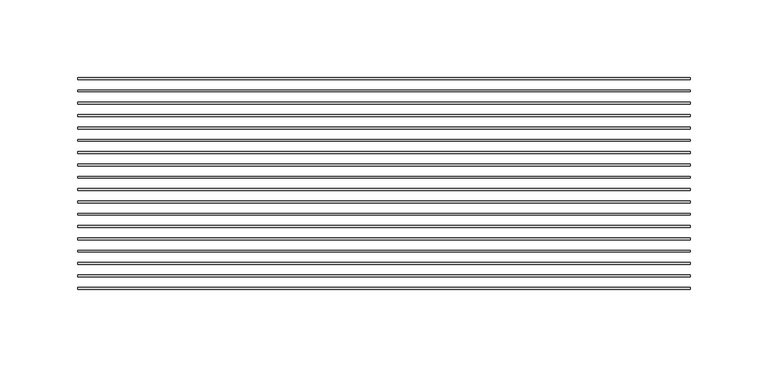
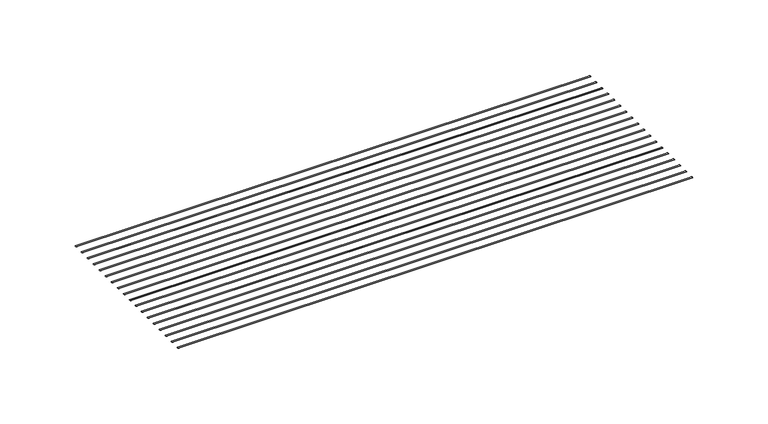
"""IFC4 building model written with IfcOpenShell, lengths in millimetres: proxy geometry, CRAi Generic Model Mesh Piece Face Based : CRAi Generic Model Mesh Piece Face Based."""

from ifc_helpers import new_model, si_unit, point, frame, origin, place, context, project, spatial, ellipse_curve, trimmed, source, transform, mapped, element, save
from ifc_brep_helpers import plane_surface, extruded_surface, advanced_brep


def generic_models_2850309d(model_context):
    return source(origin(), model_context, "Body", "AdvancedBrep", [
        advanced_brep(
        [(-196.85, -60.1761719, -2.9765625), (-196.85, -58.9855469, -2.9765625), (196.85, -60.1761719, -2.9765625), (196.85, -58.9855469, -2.9765625)],
        [
            (0, 1, ellipse_curve(frame((-196.85, -59.5808594, -2.9765625), z_axis=(-1.0, 0.0, 0.0), x_axis=(0.0, 1.0, 0.0)), 0.5953125, 0.1984375)),
            (1, 0, ellipse_curve(frame((-196.85, -59.5808594, -2.9765625), z_axis=(-1.0, 0.0, 0.0), x_axis=(0.0, 1.0, 0.0)), 0.5953125, 0.1984375)),
            (2, 3, ellipse_curve(frame((196.85, -59.5808594, -2.9765625), z_axis=(1.0, 0.0, 0.0), x_axis=(0.0, 1.0, 0.0)), 0.5953125, 0.1984375)),
            (3, 2, ellipse_curve(frame((196.85, -59.5808594, -2.9765625), z_axis=(1.0, 0.0, 0.0), x_axis=(0.0, 1.0, 0.0)), 0.5953125, 0.1984375)),
            (1, 3),
            (2, 0),
        ],
        [
            plane_surface(frame((-196.85, -59.5808594, -2.9765625), z_axis=(-1.0, 0.0, 0.0), x_axis=(0.0, 0.0, 1.0))),
            plane_surface(frame((196.85, -59.5808594, -2.9765625), z_axis=(1.0, 0.0, 0.0), x_axis=(0.0, 0.0, 1.0))),
            extruded_surface(trimmed(ellipse_curve(frame((-196.85, -59.5808594, -2.9765625), z_axis=(1.0, 0.0, 0.0), x_axis=(0.0, 1.0, 0.0)), 0.5953125, 0.1984375), [point((-196.85, -60.1761719, -2.9765625))], [point((-196.85, -58.9855469, -2.9765625))], True, "CARTESIAN"), (393.7, 0.0, 0.0), 393.7),
            extruded_surface(trimmed(ellipse_curve(frame((-196.85, -59.5808594, -2.9765625), z_axis=(1.0, 0.0, 0.0), x_axis=(0.0, 1.0, 0.0)), 0.5953125, 0.1984375), [point((-196.85, -58.9855469, -2.9765625))], [point((-196.85, -60.1761719, -2.9765625))], True, "CARTESIAN"), (393.7, 0.0, 0.0), 393.7),
        ],
        [
            (0, [[1, 2]]),
            (1, [[3, 4]]),
            (2, [[5, -3, 6, -2]]),
            (3, [[-6, -4, -5, -1]]),
        ],
    ),
        advanced_brep(
        [(-196.85, -52.2386719, -2.9765625), (-196.85, -51.0480469, -2.9765625), (196.85, -52.2386719, -2.9765625), (196.85, -51.0480469, -2.9765625)],
        [
            (0, 1, ellipse_curve(frame((-196.85, -51.6433594, -2.9765625), z_axis=(-1.0, 0.0, 0.0), x_axis=(0.0, 1.0, 0.0)), 0.5953125, 0.1984375)),
            (1, 0, ellipse_curve(frame((-196.85, -51.6433594, -2.9765625), z_axis=(-1.0, 0.0, 0.0), x_axis=(0.0, 1.0, 0.0)), 0.5953125, 0.1984375)),
            (2, 3, ellipse_curve(frame((196.85, -51.6433594, -2.9765625), z_axis=(1.0, 0.0, 0.0), x_axis=(0.0, 1.0, 0.0)), 0.5953125, 0.1984375)),
            (3, 2, ellipse_curve(frame((196.85, -51.6433594, -2.9765625), z_axis=(1.0, 0.0, 0.0), x_axis=(0.0, 1.0, 0.0)), 0.5953125, 0.1984375)),
            (1, 3),
            (2, 0),
        ],
        [
            plane_surface(frame((-196.85, -51.6433594, -2.9765625), z_axis=(-1.0, 0.0, 0.0), x_axis=(0.0, 0.0, 1.0))),
            plane_surface(frame((196.85, -51.6433594, -2.9765625), z_axis=(1.0, 0.0, 0.0), x_axis=(0.0, 0.0, 1.0))),
            extruded_surface(trimmed(ellipse_curve(frame((-196.85, -51.6433594, -2.9765625), z_axis=(1.0, 0.0, 0.0), x_axis=(0.0, 1.0, 0.0)), 0.5953125, 0.1984375), [point((-196.85, -52.2386719, -2.9765625))], [point((-196.85, -51.0480469, -2.9765625))], True, "CARTESIAN"), (393.7, 0.0, 0.0), 393.7),
            extruded_surface(trimmed(ellipse_curve(frame((-196.85, -51.6433594, -2.9765625), z_axis=(1.0, 0.0, 0.0), x_axis=(0.0, 1.0, 0.0)), 0.5953125, 0.1984375), [point((-196.85, -51.0480469, -2.9765625))], [point((-196.85, -52.2386719, -2.9765625))], True, "CARTESIAN"), (393.7, 0.0, 0.0), 393.7),
        ],
        [
            (0, [[1, 2]]),
            (1, [[3, 4]]),
            (2, [[5, -3, 6, -2]]),
            (3, [[-6, -4, -5, -1]]),
        ],
    ),
        advanced_brep(
        [(-196.85, -44.3011719, -2.9765625), (-196.85, -43.1105469, -2.9765625), (196.85, -44.3011719, -2.9765625), (196.85, -43.1105469, -2.9765625)],
        [
            (0, 1, ellipse_curve(frame((-196.85, -43.7058594, -2.9765625), z_axis=(-1.0, 0.0, 0.0), x_axis=(0.0, 1.0, 0.0)), 0.5953125, 0.1984375)),
            (1, 0, ellipse_curve(frame((-196.85, -43.7058594, -2.9765625), z_axis=(-1.0, 0.0, 0.0), x_axis=(0.0, 1.0, 0.0)), 0.5953125, 0.1984375)),
            (2, 3, ellipse_curve(frame((196.85, -43.7058594, -2.9765625), z_axis=(1.0, 0.0, 0.0), x_axis=(0.0, 1.0, 0.0)), 0.5953125, 0.1984375)),
            (3, 2, ellipse_curve(frame((196.85, -43.7058594, -2.9765625), z_axis=(1.0, 0.0, 0.0), x_axis=(0.0, 1.0, 0.0)), 0.5953125, 0.1984375)),
            (1, 3),
            (2, 0),
        ],
        [
            plane_surface(frame((-196.85, -43.7058594, -2.9765625), z_axis=(-1.0, 0.0, 0.0), x_axis=(0.0, 0.0, 1.0))),
            plane_surface(frame((196.85, -43.7058594, -2.9765625), z_axis=(1.0, 0.0, 0.0), x_axis=(0.0, 0.0, 1.0))),
            extruded_surface(trimmed(ellipse_curve(frame((-196.85, -43.7058594, -2.9765625), z_axis=(1.0, 0.0, 0.0), x_axis=(0.0, 1.0, 0.0)), 0.5953125, 0.1984375), [point((-196.85, -44.3011719, -2.9765625))], [point((-196.85, -43.1105469, -2.9765625))], True, "CARTESIAN"), (393.7, 0.0, 0.0), 393.7),
            extruded_surface(trimmed(ellipse_curve(frame((-196.85, -43.7058594, -2.9765625), z_axis=(1.0, 0.0, 0.0), x_axis=(0.0, 1.0, 0.0)), 0.5953125, 0.1984375), [point((-196.85, -43.1105469, -2.9765625))], [point((-196.85, -44.3011719, -2.9765625))], True, "CARTESIAN"), (393.7, 0.0, 0.0), 393.7),
        ],
        [
            (0, [[1, 2]]),
            (1, [[3, 4]]),
            (2, [[5, -3, 6, -2]]),
            (3, [[-6, -4, -5, -1]]),
        ],
    ),
        advanced_brep(
        [(-196.85, -36.3636719, -2.9765625), (-196.85, -35.1730469, -2.9765625), (196.85, -36.3636719, -2.9765625), (196.85, -35.1730469, -2.9765625)],
        [
            (0, 1, ellipse_curve(frame((-196.85, -35.7683594, -2.9765625), z_axis=(-1.0, 0.0, 0.0), x_axis=(0.0, 1.0, 0.0)), 0.5953125, 0.1984375)),
            (1, 0, ellipse_curve(frame((-196.85, -35.7683594, -2.9765625), z_axis=(-1.0, 0.0, 0.0), x_axis=(0.0, 1.0, 0.0)), 0.5953125, 0.1984375)),
            (2, 3, ellipse_curve(frame((196.85, -35.7683594, -2.9765625), z_axis=(1.0, 0.0, 0.0), x_axis=(0.0, 1.0, 0.0)), 0.5953125, 0.1984375)),
            (3, 2, ellipse_curve(frame((196.85, -35.7683594, -2.9765625), z_axis=(1.0, 0.0, 0.0), x_axis=(0.0, 1.0, 0.0)), 0.5953125, 0.1984375)),
            (1, 3),
            (2, 0),
        ],
        [
            plane_surface(frame((-196.85, -35.7683594, -2.9765625), z_axis=(-1.0, 0.0, 0.0), x_axis=(0.0, 0.0, 1.0))),
            plane_surface(frame((196.85, -35.7683594, -2.9765625), z_axis=(1.0, 0.0, 0.0), x_axis=(0.0, 0.0, 1.0))),
            extruded_surface(trimmed(ellipse_curve(frame((-196.85, -35.7683594, -2.9765625), z_axis=(1.0, 0.0, 0.0), x_axis=(0.0, 1.0, 0.0)), 0.5953125, 0.1984375), [point((-196.85, -36.3636719, -2.9765625))], [point((-196.85, -35.1730469, -2.9765625))], True, "CARTESIAN"), (393.7, 0.0, 0.0), 393.7),
            extruded_surface(trimmed(ellipse_curve(frame((-196.85, -35.7683594, -2.9765625), z_axis=(1.0, 0.0, 0.0), x_axis=(0.0, 1.0, 0.0)), 0.5953125, 0.1984375), [point((-196.85, -35.1730469, -2.9765625))], [point((-196.85, -36.3636719, -2.9765625))], True, "CARTESIAN"), (393.7, 0.0, 0.0), 393.7),
        ],
        [
            (0, [[1, 2]]),
            (1, [[3, 4]]),
            (2, [[5, -3, 6, -2]]),
            (3, [[-6, -4, -5, -1]]),
        ],
    ),
        advanced_brep(
        [(-196.85, -28.4261719, -2.9765625), (-196.85, -27.2355469, -2.9765625), (196.85, -28.4261719, -2.9765625), (196.85, -27.2355469, -2.9765625)],
        [
            (0, 1, ellipse_curve(frame((-196.85, -27.8308594, -2.9765625), z_axis=(-1.0, 0.0, 0.0), x_axis=(0.0, 1.0, 0.0)), 0.5953125, 0.1984375)),
            (1, 0, ellipse_curve(frame((-196.85, -27.8308594, -2.9765625), z_axis=(-1.0, 0.0, 0.0), x_axis=(0.0, 1.0, 0.0)), 0.5953125, 0.1984375)),
            (2, 3, ellipse_curve(frame((196.85, -27.8308594, -2.9765625), z_axis=(1.0, 0.0, 0.0), x_axis=(0.0, 1.0, 0.0)), 0.5953125, 0.1984375)),
            (3, 2, ellipse_curve(frame((196.85, -27.8308594, -2.9765625), z_axis=(1.0, 0.0, 0.0), x_axis=(0.0, 1.0, 0.0)), 0.5953125, 0.1984375)),
            (1, 3),
            (2, 0),
        ],
        [
            plane_surface(frame((-196.85, -27.8308594, -2.9765625), z_axis=(-1.0, 0.0, 0.0), x_axis=(0.0, 0.0, 1.0))),
            plane_surface(frame((196.85, -27.8308594, -2.9765625), z_axis=(1.0, 0.0, 0.0), x_axis=(0.0, 0.0, 1.0))),
            extruded_surface(trimmed(ellipse_curve(frame((-196.85, -27.8308594, -2.9765625), z_axis=(1.0, 0.0, 0.0), x_axis=(0.0, 1.0, 0.0)), 0.5953125, 0.1984375), [point((-196.85, -28.4261719, -2.9765625))], [point((-196.85, -27.2355469, -2.9765625))], True, "CARTESIAN"), (393.7, 0.0, 0.0), 393.7),
            extruded_surface(trimmed(ellipse_curve(frame((-196.85, -27.8308594, -2.9765625), z_axis=(1.0, 0.0, 0.0), x_axis=(0.0, 1.0, 0.0)), 0.5953125, 0.1984375), [point((-196.85, -27.2355469, -2.9765625))], [point((-196.85, -28.4261719, -2.9765625))], True, "CARTESIAN"), (393.7, 0.0, 0.0), 393.7),
        ],
        [
            (0, [[1, 2]]),
            (1, [[3, 4]]),
            (2, [[5, -3, 6, -2]]),
            (3, [[-6, -4, -5, -1]]),
        ],
    ),
        advanced_brep(
        [(-196.85, -20.4886719, -2.9765625), (-196.85, -19.2980469, -2.9765625), (196.85, -20.4886719, -2.9765625), (196.85, -19.2980469, -2.9765625)],
        [
            (0, 1, ellipse_curve(frame((-196.85, -19.8933594, -2.9765625), z_axis=(-1.0, 0.0, 0.0), x_axis=(0.0, 1.0, 0.0)), 0.5953125, 0.1984375)),
            (1, 0, ellipse_curve(frame((-196.85, -19.8933594, -2.9765625), z_axis=(-1.0, 0.0, 0.0), x_axis=(0.0, 1.0, 0.0)), 0.5953125, 0.1984375)),
            (2, 3, ellipse_curve(frame((196.85, -19.8933594, -2.9765625), z_axis=(1.0, 0.0, 0.0), x_axis=(0.0, 1.0, 0.0)), 0.5953125, 0.1984375)),
            (3, 2, ellipse_curve(frame((196.85, -19.8933594, -2.9765625), z_axis=(1.0, 0.0, 0.0), x_axis=(0.0, 1.0, 0.0)), 0.5953125, 0.1984375)),
            (1, 3),
            (2, 0),
        ],
        [
            plane_surface(frame((-196.85, -19.8933594, -2.9765625), z_axis=(-1.0, 0.0, 0.0), x_axis=(0.0, 0.0, 1.0))),
            plane_surface(frame((196.85, -19.8933594, -2.9765625), z_axis=(1.0, 0.0, 0.0), x_axis=(0.0, 0.0, 1.0))),
            extruded_surface(trimmed(ellipse_curve(frame((-196.85, -19.8933594, -2.9765625), z_axis=(1.0, 0.0, 0.0), x_axis=(0.0, 1.0, 0.0)), 0.5953125, 0.1984375), [point((-196.85, -20.4886719, -2.9765625))], [point((-196.85, -19.2980469, -2.9765625))], True, "CARTESIAN"), (393.7, 0.0, 0.0), 393.7),
            extruded_surface(trimmed(ellipse_curve(frame((-196.85, -19.8933594, -2.9765625), z_axis=(1.0, 0.0, 0.0), x_axis=(0.0, 1.0, 0.0)), 0.5953125, 0.1984375), [point((-196.85, -19.2980469, -2.9765625))], [point((-196.85, -20.4886719, -2.9765625))], True, "CARTESIAN"), (393.7, 0.0, 0.0), 393.7),
        ],
        [
            (0, [[1, 2]]),
            (1, [[3, 4]]),
            (2, [[5, -3, 6, -2]]),
            (3, [[-6, -4, -5, -1]]),
        ],
    ),
        advanced_brep(
        [(-196.85, -12.5511719, -2.9765625), (-196.85, -11.3605469, -2.9765625), (196.85, -12.5511719, -2.9765625), (196.85, -11.3605469, -2.9765625)],
        [
            (0, 1, ellipse_curve(frame((-196.85, -11.9558594, -2.9765625), z_axis=(-1.0, 0.0, 0.0), x_axis=(0.0, 1.0, 0.0)), 0.5953125, 0.1984375)),
            (1, 0, ellipse_curve(frame((-196.85, -11.9558594, -2.9765625), z_axis=(-1.0, 0.0, 0.0), x_axis=(0.0, 1.0, 0.0)), 0.5953125, 0.1984375)),
            (2, 3, ellipse_curve(frame((196.85, -11.9558594, -2.9765625), z_axis=(1.0, 0.0, 0.0), x_axis=(0.0, 1.0, 0.0)), 0.5953125, 0.1984375)),
            (3, 2, ellipse_curve(frame((196.85, -11.9558594, -2.9765625), z_axis=(1.0, 0.0, 0.0), x_axis=(0.0, 1.0, 0.0)), 0.5953125, 0.1984375)),
            (1, 3),
            (2, 0),
        ],
        [
            plane_surface(frame((-196.85, -11.9558594, -2.9765625), z_axis=(-1.0, 0.0, 0.0), x_axis=(0.0, 0.0, 1.0))),
            plane_surface(frame((196.85, -11.9558594, -2.9765625), z_axis=(1.0, 0.0, 0.0), x_axis=(0.0, 0.0, 1.0))),
            extruded_surface(trimmed(ellipse_curve(frame((-196.85, -11.9558594, -2.9765625), z_axis=(1.0, 0.0, 0.0), x_axis=(0.0, 1.0, 0.0)), 0.5953125, 0.1984375), [point((-196.85, -12.5511719, -2.9765625))], [point((-196.85, -11.3605469, -2.9765625))], True, "CARTESIAN"), (393.7, 0.0, 0.0), 393.7),
            extruded_surface(trimmed(ellipse_curve(frame((-196.85, -11.9558594, -2.9765625), z_axis=(1.0, 0.0, 0.0), x_axis=(0.0, 1.0, 0.0)), 0.5953125, 0.1984375), [point((-196.85, -11.3605469, -2.9765625))], [point((-196.85, -12.5511719, -2.9765625))], True, "CARTESIAN"), (393.7, 0.0, 0.0), 393.7),
        ],
        [
            (0, [[1, 2]]),
            (1, [[3, 4]]),
            (2, [[5, -3, 6, -2]]),
            (3, [[-6, -4, -5, -1]]),
        ],
    ),
        advanced_brep(
        [(-196.85, -4.6136719, -2.9765625), (-196.85, -3.4230469, -2.9765625), (196.85, -4.6136719, -2.9765625), (196.85, -3.4230469, -2.9765625)],
        [
            (0, 1, ellipse_curve(frame((-196.85, -4.0183594, -2.9765625), z_axis=(-1.0, 0.0, 0.0), x_axis=(0.0, 1.0, 0.0)), 0.5953125, 0.1984375)),
            (1, 0, ellipse_curve(frame((-196.85, -4.0183594, -2.9765625), z_axis=(-1.0, 0.0, 0.0), x_axis=(0.0, 1.0, 0.0)), 0.5953125, 0.1984375)),
            (2, 3, ellipse_curve(frame((196.85, -4.0183594, -2.9765625), z_axis=(1.0, 0.0, 0.0), x_axis=(0.0, 1.0, 0.0)), 0.5953125, 0.1984375)),
            (3, 2, ellipse_curve(frame((196.85, -4.0183594, -2.9765625), z_axis=(1.0, 0.0, 0.0), x_axis=(0.0, 1.0, 0.0)), 0.5953125, 0.1984375)),
            (1, 3),
            (2, 0),
        ],
        [
            plane_surface(frame((-196.85, -4.0183594, -2.9765625), z_axis=(-1.0, 0.0, 0.0), x_axis=(0.0, 0.0, 1.0))),
            plane_surface(frame((196.85, -4.0183594, -2.9765625), z_axis=(1.0, 0.0, 0.0), x_axis=(0.0, 0.0, 1.0))),
            extruded_surface(trimmed(ellipse_curve(frame((-196.85, -4.0183594, -2.9765625), z_axis=(1.0, 0.0, 0.0), x_axis=(0.0, 1.0, 0.0)), 0.5953125, 0.1984375), [point((-196.85, -4.6136719, -2.9765625))], [point((-196.85, -3.4230469, -2.9765625))], True, "CARTESIAN"), (393.7, 0.0, 0.0), 393.7),
            extruded_surface(trimmed(ellipse_curve(frame((-196.85, -4.0183594, -2.9765625), z_axis=(1.0, 0.0, 0.0), x_axis=(0.0, 1.0, 0.0)), 0.5953125, 0.1984375), [point((-196.85, -3.4230469, -2.9765625))], [point((-196.85, -4.6136719, -2.9765625))], True, "CARTESIAN"), (393.7, 0.0, 0.0), 393.7),
        ],
        [
            (0, [[1, 2]]),
            (1, [[3, 4]]),
            (2, [[5, -3, 6, -2]]),
            (3, [[-6, -4, -5, -1]]),
        ],
    ),
        advanced_brep(
        [(-196.85, 3.3238281, -2.9765625), (-196.85, 4.5144531, -2.9765625), (196.85, 3.3238281, -2.9765625), (196.85, 4.5144531, -2.9765625)],
        [
            (0, 1, ellipse_curve(frame((-196.85, 3.9191406, -2.9765625), z_axis=(-1.0, 0.0, 0.0), x_axis=(0.0, 1.0, 0.0)), 0.5953125, 0.1984375)),
            (1, 0, ellipse_curve(frame((-196.85, 3.9191406, -2.9765625), z_axis=(-1.0, 0.0, 0.0), x_axis=(0.0, 1.0, 0.0)), 0.5953125, 0.1984375)),
            (2, 3, ellipse_curve(frame((196.85, 3.9191406, -2.9765625), z_axis=(1.0, 0.0, 0.0), x_axis=(0.0, 1.0, 0.0)), 0.5953125, 0.1984375)),
            (3, 2, ellipse_curve(frame((196.85, 3.9191406, -2.9765625), z_axis=(1.0, 0.0, 0.0), x_axis=(0.0, 1.0, 0.0)), 0.5953125, 0.1984375)),
            (1, 3),
            (2, 0),
        ],
        [
            plane_surface(frame((-196.85, 3.9191406, -2.9765625), z_axis=(-1.0, 0.0, 0.0), x_axis=(0.0, 0.0, 1.0))),
            plane_surface(frame((196.85, 3.9191406, -2.9765625), z_axis=(1.0, 0.0, 0.0), x_axis=(0.0, 0.0, 1.0))),
            extruded_surface(trimmed(ellipse_curve(frame((-196.85, 3.9191406, -2.9765625), z_axis=(1.0, 0.0, 0.0), x_axis=(0.0, 1.0, 0.0)), 0.5953125, 0.1984375), [point((-196.85, 3.3238281, -2.9765625))], [point((-196.85, 4.5144531, -2.9765625))], True, "CARTESIAN"), (393.7, 0.0, 0.0), 393.7),
            extruded_surface(trimmed(ellipse_curve(frame((-196.85, 3.9191406, -2.9765625), z_axis=(1.0, 0.0, 0.0), x_axis=(0.0, 1.0, 0.0)), 0.5953125, 0.1984375), [point((-196.85, 4.5144531, -2.9765625))], [point((-196.85, 3.3238281, -2.9765625))], True, "CARTESIAN"), (393.7, 0.0, 0.0), 393.7),
        ],
        [
            (0, [[1, 2]]),
            (1, [[3, 4]]),
            (2, [[5, -3, 6, -2]]),
            (3, [[-6, -4, -5, -1]]),
        ],
    ),
        advanced_brep(
        [(-196.85, 11.2613281, -2.9765625), (-196.85, 12.4519531, -2.9765625), (196.85, 11.2613281, -2.9765625), (196.85, 12.4519531, -2.9765625)],
        [
            (0, 1, ellipse_curve(frame((-196.85, 11.8566406, -2.9765625), z_axis=(-1.0, 0.0, 0.0), x_axis=(0.0, 1.0, 0.0)), 0.5953125, 0.1984375)),
            (1, 0, ellipse_curve(frame((-196.85, 11.8566406, -2.9765625), z_axis=(-1.0, 0.0, 0.0), x_axis=(0.0, 1.0, 0.0)), 0.5953125, 0.1984375)),
            (2, 3, ellipse_curve(frame((196.85, 11.8566406, -2.9765625), z_axis=(1.0, 0.0, 0.0), x_axis=(0.0, 1.0, 0.0)), 0.5953125, 0.1984375)),
            (3, 2, ellipse_curve(frame((196.85, 11.8566406, -2.9765625), z_axis=(1.0, 0.0, 0.0), x_axis=(0.0, 1.0, 0.0)), 0.5953125, 0.1984375)),
            (1, 3),
            (2, 0),
        ],
        [
            plane_surface(frame((-196.85, 11.8566406, -2.9765625), z_axis=(-1.0, 0.0, 0.0), x_axis=(0.0, 0.0, 1.0))),
            plane_surface(frame((196.85, 11.8566406, -2.9765625), z_axis=(1.0, 0.0, 0.0), x_axis=(0.0, 0.0, 1.0))),
            extruded_surface(trimmed(ellipse_curve(frame((-196.85, 11.8566406, -2.9765625), z_axis=(1.0, 0.0, 0.0), x_axis=(0.0, 1.0, 0.0)), 0.5953125, 0.1984375), [point((-196.85, 11.2613281, -2.9765625))], [point((-196.85, 12.4519531, -2.9765625))], True, "CARTESIAN"), (393.7, 0.0, 0.0), 393.7),
            extruded_surface(trimmed(ellipse_curve(frame((-196.85, 11.8566406, -2.9765625), z_axis=(1.0, 0.0, 0.0), x_axis=(0.0, 1.0, 0.0)), 0.5953125, 0.1984375), [point((-196.85, 12.4519531, -2.9765625))], [point((-196.85, 11.2613281, -2.9765625))], True, "CARTESIAN"), (393.7, 0.0, 0.0), 393.7),
        ],
        [
            (0, [[1, 2]]),
            (1, [[3, 4]]),
            (2, [[5, -3, 6, -2]]),
            (3, [[-6, -4, -5, -1]]),
        ],
    ),
        advanced_brep(
        [(-196.85, 19.1988281, -2.9765625), (-196.85, 20.3894531, -2.9765625), (196.85, 19.1988281, -2.9765625), (196.85, 20.3894531, -2.9765625)],
        [
            (0, 1, ellipse_curve(frame((-196.85, 19.7941406, -2.9765625), z_axis=(-1.0, 0.0, 0.0), x_axis=(0.0, 1.0, 0.0)), 0.5953125, 0.1984375)),
            (1, 0, ellipse_curve(frame((-196.85, 19.7941406, -2.9765625), z_axis=(-1.0, 0.0, 0.0), x_axis=(0.0, 1.0, 0.0)), 0.5953125, 0.1984375)),
            (2, 3, ellipse_curve(frame((196.85, 19.7941406, -2.9765625), z_axis=(1.0, 0.0, 0.0), x_axis=(0.0, 1.0, 0.0)), 0.5953125, 0.1984375)),
            (3, 2, ellipse_curve(frame((196.85, 19.7941406, -2.9765625), z_axis=(1.0, 0.0, 0.0), x_axis=(0.0, 1.0, 0.0)), 0.5953125, 0.1984375)),
            (1, 3),
            (2, 0),
        ],
        [
            plane_surface(frame((-196.85, 19.7941406, -2.9765625), z_axis=(-1.0, 0.0, 0.0), x_axis=(0.0, 0.0, 1.0))),
            plane_surface(frame((196.85, 19.7941406, -2.9765625), z_axis=(1.0, 0.0, 0.0), x_axis=(0.0, 0.0, 1.0))),
            extruded_surface(trimmed(ellipse_curve(frame((-196.85, 19.7941406, -2.9765625), z_axis=(1.0, 0.0, 0.0), x_axis=(0.0, 1.0, 0.0)), 0.5953125, 0.1984375), [point((-196.85, 19.1988281, -2.9765625))], [point((-196.85, 20.3894531, -2.9765625))], True, "CARTESIAN"), (393.7, 0.0, 0.0), 393.7),
            extruded_surface(trimmed(ellipse_curve(frame((-196.85, 19.7941406, -2.9765625), z_axis=(1.0, 0.0, 0.0), x_axis=(0.0, 1.0, 0.0)), 0.5953125, 0.1984375), [point((-196.85, 20.3894531, -2.9765625))], [point((-196.85, 19.1988281, -2.9765625))], True, "CARTESIAN"), (393.7, 0.0, 0.0), 393.7),
        ],
        [
            (0, [[1, 2]]),
            (1, [[3, 4]]),
            (2, [[5, -3, 6, -2]]),
            (3, [[-6, -4, -5, -1]]),
        ],
    ),
        advanced_brep(
        [(-196.85, 27.1363281, -2.9765625), (-196.85, 28.3269531, -2.9765625), (196.85, 27.1363281, -2.9765625), (196.85, 28.3269531, -2.9765625)],
        [
            (0, 1, ellipse_curve(frame((-196.85, 27.7316406, -2.9765625), z_axis=(-1.0, 0.0, 0.0), x_axis=(0.0, 1.0, 0.0)), 0.5953125, 0.1984375)),
            (1, 0, ellipse_curve(frame((-196.85, 27.7316406, -2.9765625), z_axis=(-1.0, 0.0, 0.0), x_axis=(0.0, 1.0, 0.0)), 0.5953125, 0.1984375)),
            (2, 3, ellipse_curve(frame((196.85, 27.7316406, -2.9765625), z_axis=(1.0, 0.0, 0.0), x_axis=(0.0, 1.0, 0.0)), 0.5953125, 0.1984375)),
            (3, 2, ellipse_curve(frame((196.85, 27.7316406, -2.9765625), z_axis=(1.0, 0.0, 0.0), x_axis=(0.0, 1.0, 0.0)), 0.5953125, 0.1984375)),
            (1, 3),
            (2, 0),
        ],
        [
            plane_surface(frame((-196.85, 27.7316406, -2.9765625), z_axis=(-1.0, 0.0, 0.0), x_axis=(0.0, 0.0, 1.0))),
            plane_surface(frame((196.85, 27.7316406, -2.9765625), z_axis=(1.0, 0.0, 0.0), x_axis=(0.0, 0.0, 1.0))),
            extruded_surface(trimmed(ellipse_curve(frame((-196.85, 27.7316406, -2.9765625), z_axis=(1.0, 0.0, 0.0), x_axis=(0.0, 1.0, 0.0)), 0.5953125, 0.1984375), [point((-196.85, 27.1363281, -2.9765625))], [point((-196.85, 28.3269531, -2.9765625))], True, "CARTESIAN"), (393.7, 0.0, 0.0), 393.7),
            extruded_surface(trimmed(ellipse_curve(frame((-196.85, 27.7316406, -2.9765625), z_axis=(1.0, 0.0, 0.0), x_axis=(0.0, 1.0, 0.0)), 0.5953125, 0.1984375), [point((-196.85, 28.3269531, -2.9765625))], [point((-196.85, 27.1363281, -2.9765625))], True, "CARTESIAN"), (393.7, 0.0, 0.0), 393.7),
        ],
        [
            (0, [[1, 2]]),
            (1, [[3, 4]]),
            (2, [[5, -3, 6, -2]]),
            (3, [[-6, -4, -5, -1]]),
        ],
    ),
        advanced_brep(
        [(-196.85, 35.0738281, -2.9765625), (-196.85, 36.2644531, -2.9765625), (196.85, 35.0738281, -2.9765625), (196.85, 36.2644531, -2.9765625)],
        [
            (0, 1, ellipse_curve(frame((-196.85, 35.6691406, -2.9765625), z_axis=(-1.0, 0.0, 0.0), x_axis=(0.0, 1.0, 0.0)), 0.5953125, 0.1984375)),
            (1, 0, ellipse_curve(frame((-196.85, 35.6691406, -2.9765625), z_axis=(-1.0, 0.0, 0.0), x_axis=(0.0, 1.0, 0.0)), 0.5953125, 0.1984375)),
            (2, 3, ellipse_curve(frame((196.85, 35.6691406, -2.9765625), z_axis=(1.0, 0.0, 0.0), x_axis=(0.0, 1.0, 0.0)), 0.5953125, 0.1984375)),
            (3, 2, ellipse_curve(frame((196.85, 35.6691406, -2.9765625), z_axis=(1.0, 0.0, 0.0), x_axis=(0.0, 1.0, 0.0)), 0.5953125, 0.1984375)),
            (1, 3),
            (2, 0),
        ],
        [
            plane_surface(frame((-196.85, 35.6691406, -2.9765625), z_axis=(-1.0, 0.0, 0.0), x_axis=(0.0, 0.0, 1.0))),
            plane_surface(frame((196.85, 35.6691406, -2.9765625), z_axis=(1.0, 0.0, 0.0), x_axis=(0.0, 0.0, 1.0))),
            extruded_surface(trimmed(ellipse_curve(frame((-196.85, 35.6691406, -2.9765625), z_axis=(1.0, 0.0, 0.0), x_axis=(0.0, 1.0, 0.0)), 0.5953125, 0.1984375), [point((-196.85, 35.0738281, -2.9765625))], [point((-196.85, 36.2644531, -2.9765625))], True, "CARTESIAN"), (393.7, 0.0, 0.0), 393.7),
            extruded_surface(trimmed(ellipse_curve(frame((-196.85, 35.6691406, -2.9765625), z_axis=(1.0, 0.0, 0.0), x_axis=(0.0, 1.0, 0.0)), 0.5953125, 0.1984375), [point((-196.85, 36.2644531, -2.9765625))], [point((-196.85, 35.0738281, -2.9765625))], True, "CARTESIAN"), (393.7, 0.0, 0.0), 393.7),
        ],
        [
            (0, [[1, 2]]),
            (1, [[3, 4]]),
            (2, [[5, -3, 6, -2]]),
            (3, [[-6, -4, -5, -1]]),
        ],
    ),
        advanced_brep(
        [(-196.85, 43.0113281, -2.9765625), (-196.85, 44.2019531, -2.9765625), (196.85, 43.0113281, -2.9765625), (196.85, 44.2019531, -2.9765625)],
        [
            (0, 1, ellipse_curve(frame((-196.85, 43.6066406, -2.9765625), z_axis=(-1.0, 0.0, 0.0), x_axis=(0.0, 1.0, 0.0)), 0.5953125, 0.1984375)),
            (1, 0, ellipse_curve(frame((-196.85, 43.6066406, -2.9765625), z_axis=(-1.0, 0.0, 0.0), x_axis=(0.0, 1.0, 0.0)), 0.5953125, 0.1984375)),
            (2, 3, ellipse_curve(frame((196.85, 43.6066406, -2.9765625), z_axis=(1.0, 0.0, 0.0), x_axis=(0.0, 1.0, 0.0)), 0.5953125, 0.1984375)),
            (3, 2, ellipse_curve(frame((196.85, 43.6066406, -2.9765625), z_axis=(1.0, 0.0, 0.0), x_axis=(0.0, 1.0, 0.0)), 0.5953125, 0.1984375)),
            (1, 3),
            (2, 0),
        ],
        [
            plane_surface(frame((-196.85, 43.6066406, -2.9765625), z_axis=(-1.0, 0.0, 0.0), x_axis=(0.0, 0.0, 1.0))),
            plane_surface(frame((196.85, 43.6066406, -2.9765625), z_axis=(1.0, 0.0, 0.0), x_axis=(0.0, 0.0, 1.0))),
            extruded_surface(trimmed(ellipse_curve(frame((-196.85, 43.6066406, -2.9765625), z_axis=(1.0, 0.0, 0.0), x_axis=(0.0, 1.0, 0.0)), 0.5953125, 0.1984375), [point((-196.85, 43.0113281, -2.9765625))], [point((-196.85, 44.2019531, -2.9765625))], True, "CARTESIAN"), (393.7, 0.0, 0.0), 393.7),
            extruded_surface(trimmed(ellipse_curve(frame((-196.85, 43.6066406, -2.9765625), z_axis=(1.0, 0.0, 0.0), x_axis=(0.0, 1.0, 0.0)), 0.5953125, 0.1984375), [point((-196.85, 44.2019531, -2.9765625))], [point((-196.85, 43.0113281, -2.9765625))], True, "CARTESIAN"), (393.7, 0.0, 0.0), 393.7),
        ],
        [
            (0, [[1, 2]]),
            (1, [[3, 4]]),
            (2, [[5, -3, 6, -2]]),
            (3, [[-6, -4, -5, -1]]),
        ],
    ),
        advanced_brep(
        [(-196.85, 50.9488281, -2.9765625), (-196.85, 52.1394531, -2.9765625), (196.85, 50.9488281, -2.9765625), (196.85, 52.1394531, -2.9765625)],
        [
            (0, 1, ellipse_curve(frame((-196.85, 51.5441406, -2.9765625), z_axis=(-1.0, 0.0, 0.0), x_axis=(0.0, 1.0, 0.0)), 0.5953125, 0.1984375)),
            (1, 0, ellipse_curve(frame((-196.85, 51.5441406, -2.9765625), z_axis=(-1.0, 0.0, 0.0), x_axis=(0.0, 1.0, 0.0)), 0.5953125, 0.1984375)),
            (2, 3, ellipse_curve(frame((196.85, 51.5441406, -2.9765625), z_axis=(1.0, 0.0, 0.0), x_axis=(0.0, 1.0, 0.0)), 0.5953125, 0.1984375)),
            (3, 2, ellipse_curve(frame((196.85, 51.5441406, -2.9765625), z_axis=(1.0, 0.0, 0.0), x_axis=(0.0, 1.0, 0.0)), 0.5953125, 0.1984375)),
            (1, 3),
            (2, 0),
        ],
        [
            plane_surface(frame((-196.85, 51.5441406, -2.9765625), z_axis=(-1.0, 0.0, 0.0), x_axis=(0.0, 0.0, 1.0))),
            plane_surface(frame((196.85, 51.5441406, -2.9765625), z_axis=(1.0, 0.0, 0.0), x_axis=(0.0, 0.0, 1.0))),
            extruded_surface(trimmed(ellipse_curve(frame((-196.85, 51.5441406, -2.9765625), z_axis=(1.0, 0.0, 0.0), x_axis=(0.0, 1.0, 0.0)), 0.5953125, 0.1984375), [point((-196.85, 50.9488281, -2.9765625))], [point((-196.85, 52.1394531, -2.9765625))], True, "CARTESIAN"), (393.7, 0.0, 0.0), 393.7),
            extruded_surface(trimmed(ellipse_curve(frame((-196.85, 51.5441406, -2.9765625), z_axis=(1.0, 0.0, 0.0), x_axis=(0.0, 1.0, 0.0)), 0.5953125, 0.1984375), [point((-196.85, 52.1394531, -2.9765625))], [point((-196.85, 50.9488281, -2.9765625))], True, "CARTESIAN"), (393.7, 0.0, 0.0), 393.7),
        ],
        [
            (0, [[1, 2]]),
            (1, [[3, 4]]),
            (2, [[5, -3, 6, -2]]),
            (3, [[-6, -4, -5, -1]]),
        ],
    ),
        advanced_brep(
        [(-196.85, 58.8863281, -2.9765625), (-196.85, 60.0769531, -2.9765625), (196.85, 58.8863281, -2.9765625), (196.85, 60.0769531, -2.9765625)],
        [
            (0, 1, ellipse_curve(frame((-196.85, 59.4816406, -2.9765625), z_axis=(-1.0, 0.0, 0.0), x_axis=(0.0, 1.0, 0.0)), 0.5953125, 0.1984375)),
            (1, 0, ellipse_curve(frame((-196.85, 59.4816406, -2.9765625), z_axis=(-1.0, 0.0, 0.0), x_axis=(0.0, 1.0, 0.0)), 0.5953125, 0.1984375)),
            (2, 3, ellipse_curve(frame((196.85, 59.4816406, -2.9765625), z_axis=(1.0, 0.0, 0.0), x_axis=(0.0, 1.0, 0.0)), 0.5953125, 0.1984375)),
            (3, 2, ellipse_curve(frame((196.85, 59.4816406, -2.9765625), z_axis=(1.0, 0.0, 0.0), x_axis=(0.0, 1.0, 0.0)), 0.5953125, 0.1984375)),
            (1, 3),
            (2, 0),
        ],
        [
            plane_surface(frame((-196.85, 59.4816406, -2.9765625), z_axis=(-1.0, 0.0, 0.0), x_axis=(0.0, 0.0, 1.0))),
            plane_surface(frame((196.85, 59.4816406, -2.9765625), z_axis=(1.0, 0.0, 0.0), x_axis=(0.0, 0.0, 1.0))),
            extruded_surface(trimmed(ellipse_curve(frame((-196.85, 59.4816406, -2.9765625), z_axis=(1.0, 0.0, 0.0), x_axis=(0.0, 1.0, 0.0)), 0.5953125, 0.1984375), [point((-196.85, 58.8863281, -2.9765625))], [point((-196.85, 60.0769531, -2.9765625))], True, "CARTESIAN"), (393.7, 0.0, 0.0), 393.7),
            extruded_surface(trimmed(ellipse_curve(frame((-196.85, 59.4816406, -2.9765625), z_axis=(1.0, 0.0, 0.0), x_axis=(0.0, 1.0, 0.0)), 0.5953125, 0.1984375), [point((-196.85, 60.0769531, -2.9765625))], [point((-196.85, 58.8863281, -2.9765625))], True, "CARTESIAN"), (393.7, 0.0, 0.0), 393.7),
        ],
        [
            (0, [[1, 2]]),
            (1, [[3, 4]]),
            (2, [[5, -3, 6, -2]]),
            (3, [[-6, -4, -5, -1]]),
        ],
    ),
        advanced_brep(
        [(-196.85, 66.8238281, -2.9765625), (-196.85, 68.0144531, -2.9765625), (196.85, 66.8238281, -2.9765625), (196.85, 68.0144531, -2.9765625)],
        [
            (0, 1, ellipse_curve(frame((-196.85, 67.4191406, -2.9765625), z_axis=(-1.0, 0.0, 0.0), x_axis=(0.0, 1.0, 0.0)), 0.5953125, 0.1984375)),
            (1, 0, ellipse_curve(frame((-196.85, 67.4191406, -2.9765625), z_axis=(-1.0, 0.0, 0.0), x_axis=(0.0, 1.0, 0.0)), 0.5953125, 0.1984375)),
            (2, 3, ellipse_curve(frame((196.85, 67.4191406, -2.9765625), z_axis=(1.0, 0.0, 0.0), x_axis=(0.0, 1.0, 0.0)), 0.5953125, 0.1984375)),
            (3, 2, ellipse_curve(frame((196.85, 67.4191406, -2.9765625), z_axis=(1.0, 0.0, 0.0), x_axis=(0.0, 1.0, 0.0)), 0.5953125, 0.1984375)),
            (1, 3),
            (2, 0),
        ],
        [
            plane_surface(frame((-196.85, 67.4191406, -2.9765625), z_axis=(-1.0, 0.0, 0.0), x_axis=(0.0, 0.0, 1.0))),
            plane_surface(frame((196.85, 67.4191406, -2.9765625), z_axis=(1.0, 0.0, 0.0), x_axis=(0.0, 0.0, 1.0))),
            extruded_surface(trimmed(ellipse_curve(frame((-196.85, 67.4191406, -2.9765625), z_axis=(1.0, 0.0, 0.0), x_axis=(0.0, 1.0, 0.0)), 0.5953125, 0.1984375), [point((-196.85, 66.8238281, -2.9765625))], [point((-196.85, 68.0144531, -2.9765625))], True, "CARTESIAN"), (393.7, 0.0, 0.0), 393.7),
            extruded_surface(trimmed(ellipse_curve(frame((-196.85, 67.4191406, -2.9765625), z_axis=(1.0, 0.0, 0.0), x_axis=(0.0, 1.0, 0.0)), 0.5953125, 0.1984375), [point((-196.85, 68.0144531, -2.9765625))], [point((-196.85, 66.8238281, -2.9765625))], True, "CARTESIAN"), (393.7, 0.0, 0.0), 393.7),
        ],
        [
            (0, [[1, 2]]),
            (1, [[3, 4]]),
            (2, [[5, -3, 6, -2]]),
            (3, [[-6, -4, -5, -1]]),
        ],
    ),
        advanced_brep(
        [(-196.85, 74.7613281, -2.9765625), (-196.85, 75.9519531, -2.9765625), (196.85, 74.7613281, -2.9765625), (196.85, 75.9519531, -2.9765625)],
        [
            (0, 1, ellipse_curve(frame((-196.85, 75.3566406, -2.9765625), z_axis=(-1.0, 0.0, 0.0), x_axis=(0.0, 1.0, 0.0)), 0.5953125, 0.1984375)),
            (1, 0, ellipse_curve(frame((-196.85, 75.3566406, -2.9765625), z_axis=(-1.0, 0.0, 0.0), x_axis=(0.0, 1.0, 0.0)), 0.5953125, 0.1984375)),
            (2, 3, ellipse_curve(frame((196.85, 75.3566406, -2.9765625), z_axis=(1.0, 0.0, 0.0), x_axis=(0.0, 1.0, 0.0)), 0.5953125, 0.1984375)),
            (3, 2, ellipse_curve(frame((196.85, 75.3566406, -2.9765625), z_axis=(1.0, 0.0, 0.0), x_axis=(0.0, 1.0, 0.0)), 0.5953125, 0.1984375)),
            (1, 3),
            (2, 0),
        ],
        [
            plane_surface(frame((-196.85, 75.3566406, -2.9765625), z_axis=(-1.0, 0.0, 0.0), x_axis=(0.0, 0.0, 1.0))),
            plane_surface(frame((196.85, 75.3566406, -2.9765625), z_axis=(1.0, 0.0, 0.0), x_axis=(0.0, 0.0, 1.0))),
            extruded_surface(trimmed(ellipse_curve(frame((-196.85, 75.3566406, -2.9765625), z_axis=(1.0, 0.0, 0.0), x_axis=(0.0, 1.0, 0.0)), 0.5953125, 0.1984375), [point((-196.85, 74.7613281, -2.9765625))], [point((-196.85, 75.9519531, -2.9765625))], True, "CARTESIAN"), (393.7, 0.0, 0.0), 393.7),
            extruded_surface(trimmed(ellipse_curve(frame((-196.85, 75.3566406, -2.9765625), z_axis=(1.0, 0.0, 0.0), x_axis=(0.0, 1.0, 0.0)), 0.5953125, 0.1984375), [point((-196.85, 75.9519531, -2.9765625))], [point((-196.85, 74.7613281, -2.9765625))], True, "CARTESIAN"), (393.7, 0.0, 0.0), 393.7),
        ],
        [
            (0, [[1, 2]]),
            (1, [[3, 4]]),
            (2, [[5, -3, 6, -2]]),
            (3, [[-6, -4, -5, -1]]),
        ],
    ),
    ])


if __name__ == "__main__":
    model = new_model("IFC4")
    model_context = context("Model", 3, world=origin())
    ifc_project = project(units=[si_unit("LENGTHUNIT", "METRE", prefix="MILLI")], contexts=[model_context])
    site = spatial("IfcSite", under=ifc_project)
    building = spatial("IfcBuilding", under=site)
    placement = place(None, origin())
    generic_models_shape = generic_models_2850309d(model_context)
    element("IfcBuildingElementProxy", 1, Name="CRAi Generic Model Mesh Piece Face Based : CRAi Generic Model Mesh Piece Face Based", ObjectType="CRAi Generic Model Mesh Piece Face Based : CRAi Generic Model Mesh Piece Face Based", at=placement, inside=building, context=model_context, shape_type="MappedRepresentation", body=[
        mapped(generic_models_shape, transform((0.0, 0.0, 0.0), x_axis=(1.0, 0.0, 0.0), y_axis=(0.0, 1.0, 0.0), z_axis=(0.0, 0.0, 1.0))),
    ])
    save(model, "model.ifc")
